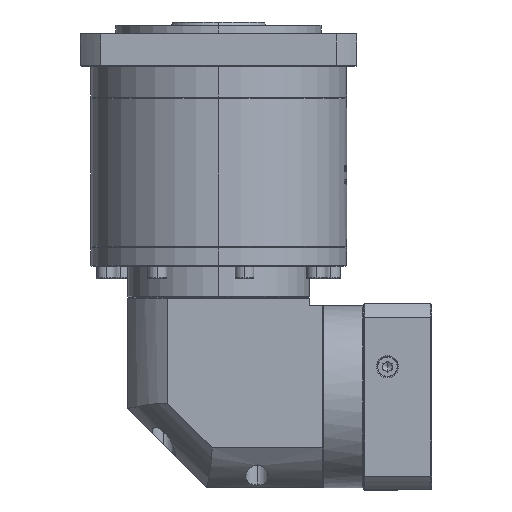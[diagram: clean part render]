
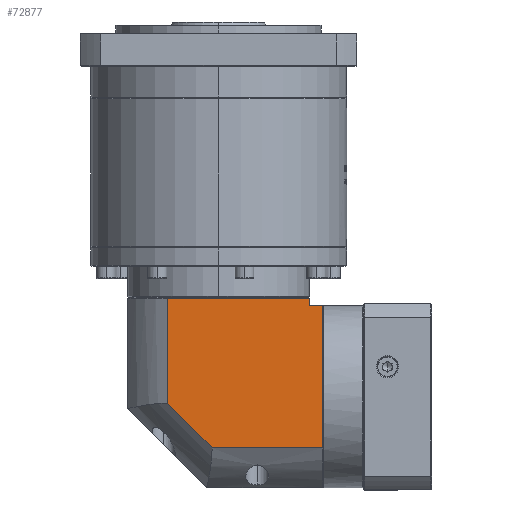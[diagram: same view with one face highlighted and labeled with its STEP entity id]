
A CAD part, left-side view. The second image highlights one B-rep face of the part: STEP entity #72877.
In plain terms, the highlighted planar face has unit normal (-1, 0, 0).
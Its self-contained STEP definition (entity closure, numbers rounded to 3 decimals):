
#560 = EDGE_CURVE ( 'NONE', #95569, #124902, #39614, .T. ) ;
#11761 = EDGE_CURVE ( 'NONE', #113314, #124902, #130055, .T. ) ;
#16821 = ORIENTED_EDGE ( 'NONE', *, *, #11761, .T. ) ;
#23448 = DIRECTION ( 'NONE',  ( 0., 0., -1. ) ) ;
#26725 = DIRECTION ( 'NONE',  ( 0., 0., 1. ) ) ;
#28264 = CARTESIAN_POINT ( 'NONE',  ( -239.744, -85.365, -3.174 ) ) ;
#29301 = CARTESIAN_POINT ( 'NONE',  ( -239.744, -23.804, 21.926 ) ) ;
#31156 = VECTOR ( 'NONE', #23448, 1000. ) ;
#32104 = EDGE_LOOP ( 'NONE', ( #133219, #99812, #65915, #56277, #35755, #16821, #74300 ) ) ;
#34667 = VECTOR ( 'NONE', #26725, 1000. ) ;
#35755 = ORIENTED_EDGE ( 'NONE', *, *, #67559, .T. ) ;
#38666 = LINE ( 'NONE', #130615, #31156 ) ;
#39614 = LINE ( 'NONE', #44674, #120021 ) ;
#41828 = DIRECTION ( 'NONE',  ( 0., 0.707, 0.707 ) ) ;
#42507 = CARTESIAN_POINT ( 'NONE',  ( -239.744, -85.365, 111.826 ) ) ;
#42614 = DIRECTION ( 'NONE',  ( 1., 0., 0. ) ) ;
#44674 = CARTESIAN_POINT ( 'NONE',  ( -239.744, 29.635, 116.826 ) ) ;
#48068 = LINE ( 'NONE', #142079, #55587 ) ;
#55587 = VECTOR ( 'NONE', #93560, 1000. ) ;
#56277 = ORIENTED_EDGE ( 'NONE', *, *, #128097, .F. ) ;
#56455 = DIRECTION ( 'NONE',  ( 0., 0., 1. ) ) ;
#65303 = LINE ( 'NONE', #129171, #70863 ) ;
#65915 = ORIENTED_EDGE ( 'NONE', *, *, #151317, .F. ) ;
#67559 = EDGE_CURVE ( 'NONE', #136684, #113314, #116961, .T. ) ;
#68311 = VECTOR ( 'NONE', #72458, 1000. ) ;
#70863 = VECTOR ( 'NONE', #56455, 1000. ) ;
#72458 = DIRECTION ( 'NONE',  ( 0., 1., 0. ) ) ;
#72877 = ADVANCED_FACE ( 'NONE', ( #97365 ), #102210, .F. ) ;
#74300 = ORIENTED_EDGE ( 'NONE', *, *, #560, .F. ) ;
#75760 = VERTEX_POINT ( 'NONE', #107259 ) ;
#75982 = VERTEX_POINT ( 'NONE', #102905 ) ;
#93560 = DIRECTION ( 'NONE',  ( 0., 1., 0. ) ) ;
#95569 = VERTEX_POINT ( 'NONE', #112495 ) ;
#97365 = FACE_OUTER_BOUND ( 'NONE', #32104, .T. ) ;
#99812 = ORIENTED_EDGE ( 'NONE', *, *, #100657, .F. ) ;
#100657 = EDGE_CURVE ( 'NONE', #75760, #147806, #124488, .T. ) ;
#102210 = PLANE ( 'NONE',  #141202 ) ;
#102905 = CARTESIAN_POINT ( 'NONE',  ( -239.744, -93.765, 21.926 ) ) ;
#106919 = CARTESIAN_POINT ( 'NONE',  ( -239.744, 4.535, 50.264 ) ) ;
#107259 = CARTESIAN_POINT ( 'NONE',  ( -239.744, -23.804, 21.926 ) ) ;
#112495 = CARTESIAN_POINT ( 'NONE',  ( -239.744, 4.535, 116.826 ) ) ;
#113314 = VERTEX_POINT ( 'NONE', #42507 ) ;
#114254 = CARTESIAN_POINT ( 'NONE',  ( -239.744, 29.635, 123.326 ) ) ;
#115040 = VECTOR ( 'NONE', #41828, 1000. ) ;
#115061 = CARTESIAN_POINT ( 'NONE',  ( -239.744, -85.365, 116.826 ) ) ;
#115802 = DIRECTION ( 'NONE',  ( 0., -1., 0. ) ) ;
#116961 = LINE ( 'NONE', #119551, #68311 ) ;
#119551 = CARTESIAN_POINT ( 'NONE',  ( -239.744, -85.365, 111.826 ) ) ;
#120021 = VECTOR ( 'NONE', #115802, 1000. ) ;
#122780 = EDGE_CURVE ( 'NONE', #147806, #95569, #65303, .T. ) ;
#124488 = LINE ( 'NONE', #29301, #115040 ) ;
#124902 = VERTEX_POINT ( 'NONE', #115061 ) ;
#126300 = DIRECTION ( 'NONE',  ( 0., 1., 0. ) ) ;
#128097 = EDGE_CURVE ( 'NONE', #136684, #75982, #38666, .T. ) ;
#129171 = CARTESIAN_POINT ( 'NONE',  ( -239.744, 4.535, 123.326 ) ) ;
#130055 = LINE ( 'NONE', #28264, #34667 ) ;
#130615 = CARTESIAN_POINT ( 'NONE',  ( -239.744, -93.765, 123.326 ) ) ;
#133219 = ORIENTED_EDGE ( 'NONE', *, *, #122780, .F. ) ;
#136684 = VERTEX_POINT ( 'NONE', #140974 ) ;
#140974 = CARTESIAN_POINT ( 'NONE',  ( -239.744, -93.765, 111.826 ) ) ;
#141202 = AXIS2_PLACEMENT_3D ( 'NONE', #114254, #42614, #126300 ) ;
#142079 = CARTESIAN_POINT ( 'NONE',  ( -239.744, 29.635, 21.926 ) ) ;
#147806 = VERTEX_POINT ( 'NONE', #106919 ) ;
#151317 = EDGE_CURVE ( 'NONE', #75982, #75760, #48068, .T. ) ;
